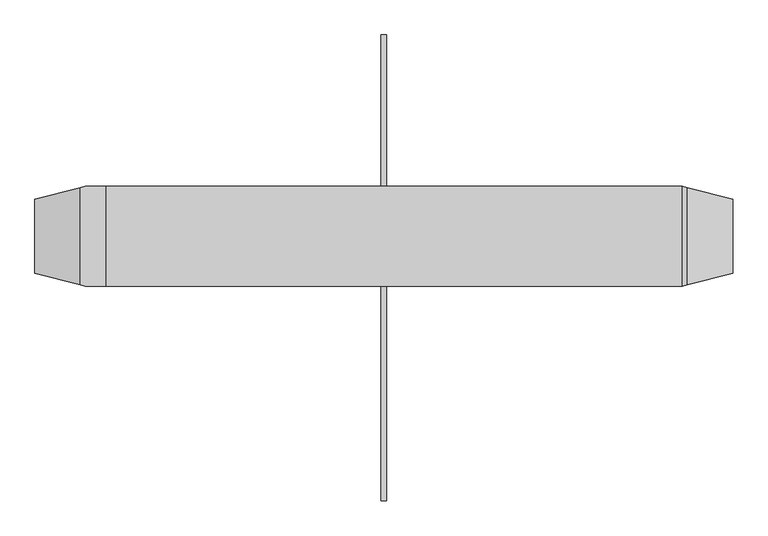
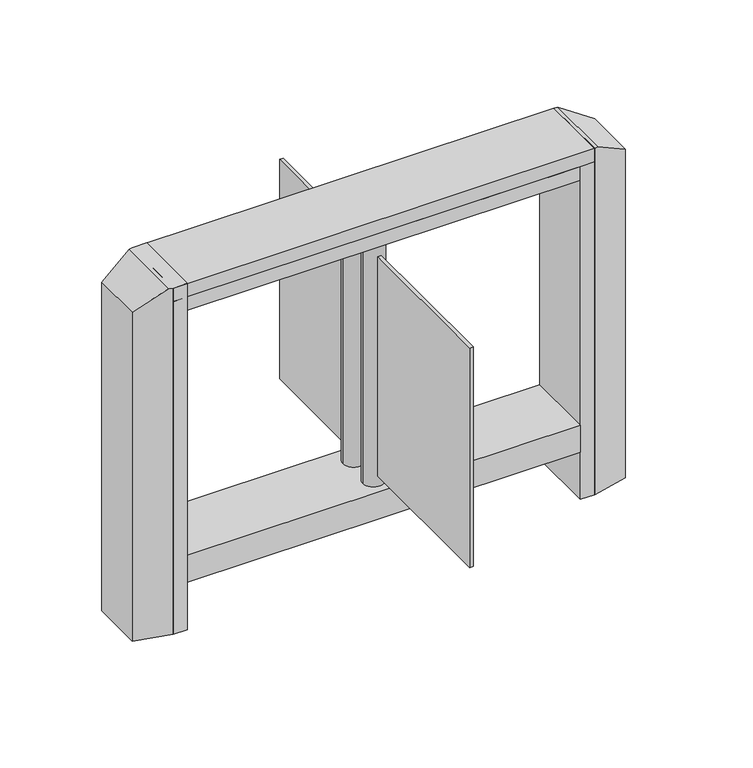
"""IFC4 building model written with IfcOpenShell, lengths in millimetres: proxy geometry, Gotschlich_Турникет_Axioma DF_Центральный_Модуль_R18 : Axioma DF S/B LW650-900."""

from ifc_helpers import new_model, si_unit, point, frame, frame_2d, origin, origin_with_axes, place, context, project, spatial, polyline, circle_curve, trimmed, segment, composite_curve, outline, extrude, faceted_brep, source, transform, mapped, element, save


def mechanical_equipment_12aa2fce(model_context):
    return source(origin(), model_context, "Body", "SolidModel", [
        extrude(outline(polyline([(5.0, 398.0201137), (5.0, 48.0201137), (-5.0, 48.0201137), (-5.0, 398.0201137), (5.0, 398.0201137)])), frame((0.0, 0.0, 250.0), z_axis=(0.0, 0.0, 1.0), x_axis=(1.0, 0.0, 0.0)), (0.0, 0.0, 1.0), 650.0),
        extrude(outline(composite_curve([segment(trimmed(circle_curve(frame_2d((0.0, 48.0201137)), 30.0), [point((30.0, 48.0201137))], [point((-30.0, 48.0201137))], False, "CARTESIAN"), True, "CONTINUOUS"), segment(trimmed(circle_curve(frame_2d((0.0, 48.0201137)), 30.0), [point((-30.0, 48.0201137))], [point((30.0, 48.0201137))], False, "CARTESIAN"), True, "CONTINUOUS")], self_intersect=False)), frame((0.0, 0.0, 220.0), z_axis=(0.0, 0.0, 1.0), x_axis=(1.0, 0.0, 0.0)), (0.0, 0.0, 1.0), 725.0),
        extrude(outline(polyline([(5.0, -48.0201137), (5.0, -523.0201137), (-5.0, -523.0201137), (-5.0, -48.0201137), (5.0, -48.0201137)])), frame((0.0, 0.0, 250.0), z_axis=(0.0, 0.0, 1.0), x_axis=(1.0, 0.0, 0.0)), (0.0, 0.0, 1.0), 650.0),
        extrude(outline(composite_curve([segment(trimmed(circle_curve(frame_2d((0.0, -48.0201137)), 30.0), [point((30.0, -48.0201137))], [point((-30.0, -48.0201137))], False, "CARTESIAN"), True, "CONTINUOUS"), segment(trimmed(circle_curve(frame_2d((0.0, -48.0201137)), 30.0), [point((-30.0, -48.0201137))], [point((30.0, -48.0201137))], False, "CARTESIAN"), True, "CONTINUOUS")], self_intersect=False)), frame((0.0, 0.0, 220.0), z_axis=(0.0, 0.0, 1.0), x_axis=(1.0, 0.0, 0.0)), (0.0, 0.0, 1.0), 725.0),
        faceted_brep([(-550.0, -98.5, 0.0), (-550.0, -98.5, 1025.0), (-590.1, -98.5, 1025.0), (-590.1, -98.5, 0.0), (-550.0, 98.5, 1025.0), (-550.0, 98.5, 0.0), (-590.1, 98.5, 0.0), (-590.1, 98.5, 1025.0), (-690.1, -73.5, 0.0), (-690.1, 73.5, 0.0), (-600.1, 96.0, 1025.0), (-600.1, -96.0, 1025.0), (-690.1, 73.5, 973.0384758), (-690.1, -73.5, 973.0384758)], [[[0, 1, 2, 3]], [[4, 5, 6, 7]], [[5, 0, 3, 8, 9, 6]], [[1, 0, 5, 4]], [[1, 4, 7, 10, 11, 2]], [[11, 10, 12, 13]], [[13, 12, 9, 8]], [[7, 6, 9, 12, 10]], [[3, 2, 11, 13, 8]]]),
        faceted_brep([(690.1, 73.5, 973.0384758), (690.1, -73.5, 973.0384758), (690.1, -73.5, 0.0), (690.1, 73.5, 0.0), (600.1, 96.0, 1025.0), (600.1, -96.0, 1025.0), (590.1, 98.5, 1025.0), (590.1, -98.5, 1025.0), (590.1, 98.5, 0.0), (590.1, -98.5, 0.0)], [[[0, 1, 2, 3]], [[1, 0, 4, 5]], [[6, 7, 5, 4]], [[7, 6, 8, 9]], [[9, 8, 3, 2]], [[2, 1, 5, 7, 9]], [[0, 3, 8, 6, 4]]]),
        extrude(outline(polyline([(-550.0, 98.5), (550.0, 98.5), (550.0, -98.5), (-550.0, -98.5), (-550.0, 98.5)])), frame((0.0, 0.0, 140.0), z_axis=(0.0, 0.0, 1.0), x_axis=(1.0, 0.0, 0.0)), (0.0, 0.0, 1.0), 80.0),
        extrude(outline(polyline([(-590.1, 98.5), (-550.0, 98.5), (-550.0, -98.5), (-590.1, -98.5), (-590.1, 98.5)])), origin_with_axes(), (0.0, 0.0, 1.0), 985.0),
        extrude(outline(polyline([(550.0, 98.5), (590.1, 98.5), (590.1, -98.5), (550.0, -98.5), (550.0, 98.5)])), origin_with_axes(), (0.0, 0.0, 1.0), 985.0),
        extrude(outline(polyline([(-550.0, 98.5), (550.0, 98.5), (550.0, -98.5), (-550.0, -98.5), (-550.0, 98.5)])), frame((0.0, 0.0, 945.0), z_axis=(0.0, 0.0, 1.0), x_axis=(1.0, 0.0, 0.0)), (0.0, 0.0, 1.0), 40.0),
        extrude(outline(polyline([(-590.1, 98.5), (590.1, 98.5), (590.1, -98.5), (-590.1, -98.5), (-590.1, 98.5)])), frame((0.0, 0.0, 985.0), z_axis=(0.0, 0.0, 1.0), x_axis=(1.0, 0.0, 0.0)), (0.0, 0.0, 1.0), 40.0),
    ])


if __name__ == "__main__":
    model = new_model("IFC4")
    model_context = context("Model", 3, world=origin())
    ifc_project = project(units=[si_unit("LENGTHUNIT", "METRE", prefix="MILLI")], contexts=[model_context])
    site = spatial("IfcSite", under=ifc_project)
    building = spatial("IfcBuilding", under=site)
    placement = place(None, origin())
    mechanical_equipment_shape = mechanical_equipment_12aa2fce(model_context)
    element("IfcBuildingElementProxy", 1, Name="Gotschlich_Турникет_Axioma DF_Центральный_Модуль_R18 : Axioma DF S/B LW650-900", ObjectType="Gotschlich_Турникет_Axioma DF_Центральный_Модуль_R18 : Axioma DF S/B LW650-900", at=placement, inside=building, context=model_context, shape_type="MappedRepresentation", body=[
        mapped(mechanical_equipment_shape, transform((0.0, 0.0, 0.0), x_axis=(1.0, 0.0, 0.0), y_axis=(0.0, 1.0, 0.0), z_axis=(0.0, 0.0, 1.0))),
    ])
    save(model, "model.ifc")
